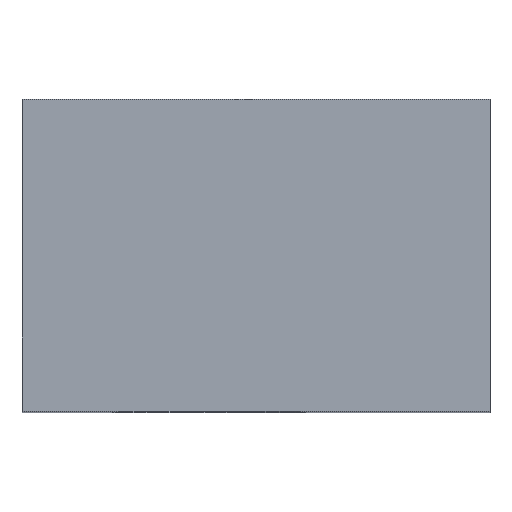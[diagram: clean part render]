
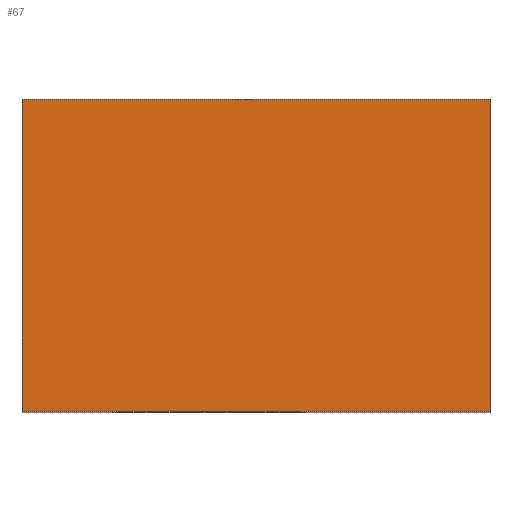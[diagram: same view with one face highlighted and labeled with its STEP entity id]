
A CAD part, top view. The second image highlights one B-rep face of the part: STEP entity #67.
In plain terms, the highlighted planar face has unit normal (0, 0, 1).
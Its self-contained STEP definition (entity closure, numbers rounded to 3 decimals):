
#67=ADVANCED_FACE('',(#82),#76,.F.);
#76=PLANE('',#195);
#82=FACE_OUTER_BOUND('',#84,.T.);
#84=EDGE_LOOP('',(#102,#103,#104,#105));
#102=ORIENTED_EDGE('',*,*,#152,.T.);
#103=ORIENTED_EDGE('',*,*,#153,.F.);
#104=ORIENTED_EDGE('',*,*,#154,.F.);
#105=ORIENTED_EDGE('',*,*,#155,.T.);
#138=VERTEX_POINT('',#256);
#139=VERTEX_POINT('',#257);
#140=VERTEX_POINT('',#259);
#141=VERTEX_POINT('',#261);
#152=EDGE_CURVE('',#138,#139,#170,.T.);
#153=EDGE_CURVE('',#140,#139,#171,.T.);
#154=EDGE_CURVE('',#141,#140,#172,.T.);
#155=EDGE_CURVE('',#141,#138,#173,.T.);
#170=LINE('',#255,#182);
#171=LINE('',#258,#183);
#172=LINE('',#260,#184);
#173=LINE('',#262,#185);
#182=VECTOR('',#212,1.);
#183=VECTOR('',#213,1.);
#184=VECTOR('',#214,1.);
#185=VECTOR('',#215,1.);
#195=AXIS2_PLACEMENT_3D('',#263,#216,#217);
#212=DIRECTION('',(0.,-1.,0.));
#213=DIRECTION('',(-1.,0.,0.));
#214=DIRECTION('',(0.,-1.,0.));
#215=DIRECTION('',(-1.,0.,0.));
#216=DIRECTION('',(0.,0.,-1.));
#217=DIRECTION('',(-1.,0.,0.));
#255=CARTESIAN_POINT('',(-6.,5.,14.));
#256=CARTESIAN_POINT('',(-6.,5.,14.));
#257=CARTESIAN_POINT('',(-6.,-5.,14.));
#258=CARTESIAN_POINT('',(6.,-5.,14.));
#259=CARTESIAN_POINT('',(9.,-5.,14.));
#260=CARTESIAN_POINT('',(9.,5.,14.));
#261=CARTESIAN_POINT('',(9.,5.,14.));
#262=CARTESIAN_POINT('',(6.,5.,14.));
#263=CARTESIAN_POINT('',(6.,5.,14.));
